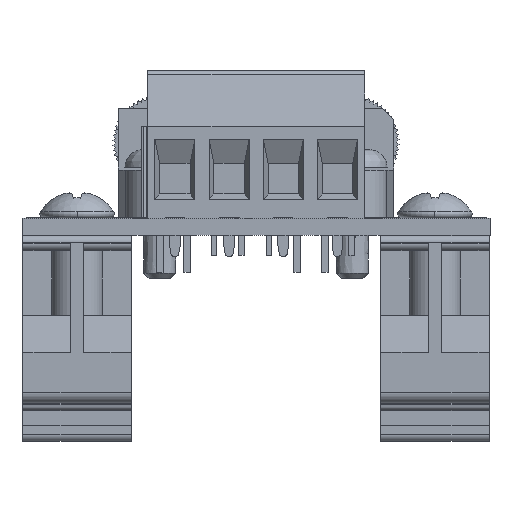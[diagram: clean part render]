
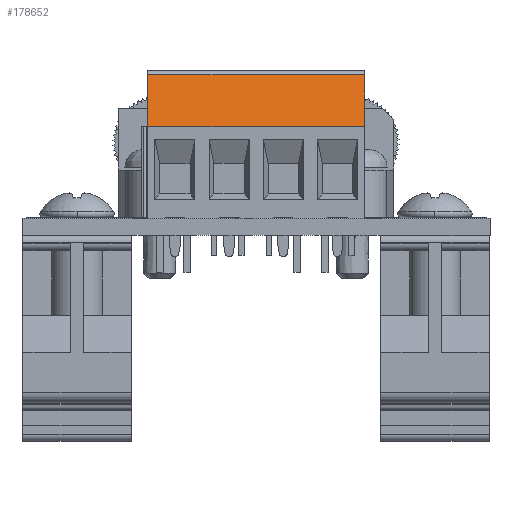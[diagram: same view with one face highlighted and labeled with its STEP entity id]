
A CAD part, left-side view. The second image highlights one B-rep face of the part: STEP entity #178652.
In plain terms, the highlighted planar face has unit normal (-0.956, 0, 0.292).
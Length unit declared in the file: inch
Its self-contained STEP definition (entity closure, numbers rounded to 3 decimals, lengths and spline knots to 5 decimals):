
#1812 = ORIENTED_EDGE ( 'NONE', *, *, #184846, .F. ) ;
#8945 = CARTESIAN_POINT ( 'NONE',  ( 0.25448, 0.39312, 0.33268 ) ) ;
#10465 = VERTEX_POINT ( 'NONE', #27897 ) ;
#17413 = ORIENTED_EDGE ( 'NONE', *, *, #80904, .F. ) ;
#22304 = VERTEX_POINT ( 'NONE', #39167 ) ;
#26825 = CARTESIAN_POINT ( 'NONE',  ( 0.31221, 0.39312, 0.5215 ) ) ;
#27897 = CARTESIAN_POINT ( 'NONE',  ( 0.25448, 0.39312, 0.33268 ) ) ;
#28442 = CARTESIAN_POINT ( 'NONE',  ( 0.25448, -0.39428, 0.33268 ) ) ;
#29381 = PLANE ( 'NONE',  #103903 ) ;
#30608 = EDGE_LOOP ( 'NONE', ( #17413, #1812, #66839, #140132 ) ) ;
#38612 = CARTESIAN_POINT ( 'NONE',  ( 0.31221, 0.39312, 0.5215 ) ) ;
#38751 = EDGE_CURVE ( 'NONE', #107541, #10465, #157429, .T. ) ;
#39167 = CARTESIAN_POINT ( 'NONE',  ( 0.31221, -0.39428, 0.5215 ) ) ;
#47150 = LINE ( 'NONE', #26825, #56435 ) ;
#56435 = VECTOR ( 'NONE', #70958, 39.37008 ) ;
#63209 = CARTESIAN_POINT ( 'NONE',  ( 0.31221, -0.39428, 0.5215 ) ) ;
#66839 = ORIENTED_EDGE ( 'NONE', *, *, #38751, .T. ) ;
#70958 = DIRECTION ( 'NONE',  ( 0., -1., 0. ) ) ;
#73510 = DIRECTION ( 'NONE',  ( 0., 1., 0. ) ) ;
#80904 = EDGE_CURVE ( 'NONE', #22304, #155055, #122669, .T. ) ;
#88598 = DIRECTION ( 'NONE',  ( -0.956, 0., 0.292 ) ) ;
#103903 = AXIS2_PLACEMENT_3D ( 'NONE', #132647, #88598, #73510 ) ;
#107541 = VERTEX_POINT ( 'NONE', #144578 ) ;
#113172 = VECTOR ( 'NONE', #126933, 39.37008 ) ;
#122009 = LINE ( 'NONE', #8945, #138260 ) ;
#122669 = LINE ( 'NONE', #63209, #155375 ) ;
#126933 = DIRECTION ( 'NONE',  ( -0.292, 0., -0.956 ) ) ;
#128408 = DIRECTION ( 'NONE',  ( 0., -1., 0. ) ) ;
#130663 = FACE_OUTER_BOUND ( 'NONE', #30608, .T. ) ;
#132647 = CARTESIAN_POINT ( 'NONE',  ( 0.31221, 0.58997, 0.5215 ) ) ;
#138260 = VECTOR ( 'NONE', #128408, 39.37008 ) ;
#140132 = ORIENTED_EDGE ( 'NONE', *, *, #150136, .T. ) ;
#144578 = CARTESIAN_POINT ( 'NONE',  ( 0.31221, 0.39312, 0.5215 ) ) ;
#150136 = EDGE_CURVE ( 'NONE', #10465, #155055, #122009, .T. ) ;
#152282 = DIRECTION ( 'NONE',  ( -0.292, 0., -0.956 ) ) ;
#155055 = VERTEX_POINT ( 'NONE', #28442 ) ;
#155375 = VECTOR ( 'NONE', #152282, 39.37008 ) ;
#157429 = LINE ( 'NONE', #38612, #113172 ) ;
#178652 = ADVANCED_FACE ( 'NONE', ( #130663 ), #29381, .T. ) ;
#184846 = EDGE_CURVE ( 'NONE', #107541, #22304, #47150, .T. ) ;
